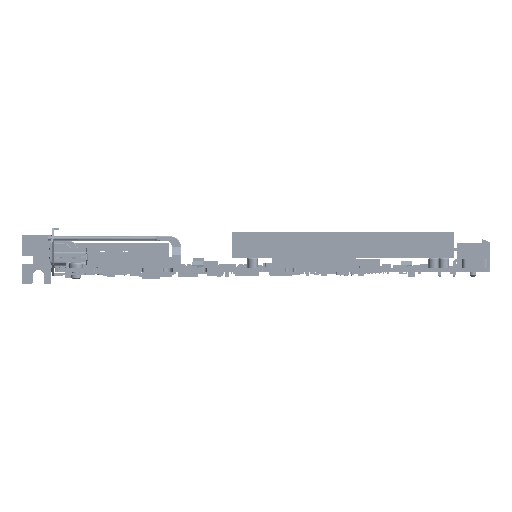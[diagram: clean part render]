
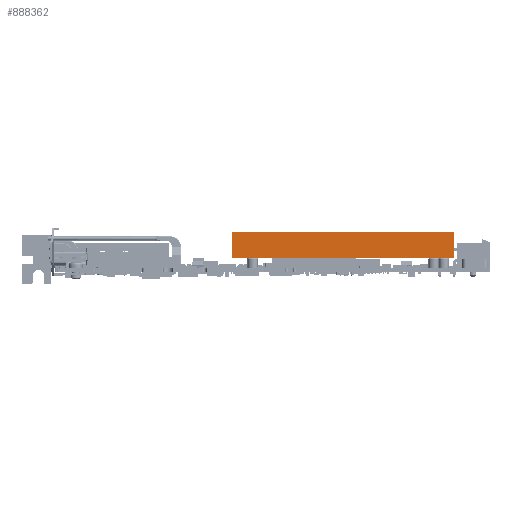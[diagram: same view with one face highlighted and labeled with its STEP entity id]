
A CAD part, front view. The second image highlights one B-rep face of the part: STEP entity #888362.
In plain terms, the highlighted planar face has unit normal (0, -1, 0) as drawn and (1, 0, 0) by its records, which use the part's own axes.
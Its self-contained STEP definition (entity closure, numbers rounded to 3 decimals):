
#887019=DIRECTION('',(0.,-1.,0.));
#887020=VECTOR('',#887019,10.1);
#887021=CARTESIAN_POINT('',(27.5,10.1,51.));
#887022=LINE('',#887021,#887020);
#887091=DIRECTION('',(0.,0.,1.));
#887092=VECTOR('',#887091,86.);
#887093=CARTESIAN_POINT('',(27.5,10.1,-35.));
#887094=LINE('',#887093,#887092);
#887103=DIRECTION('',(0.,-1.,0.));
#887104=VECTOR('',#887103,10.1);
#887105=CARTESIAN_POINT('',(27.5,10.1,-35.));
#887106=LINE('',#887105,#887104);
#887107=DIRECTION('',(0.,0.,1.));
#887108=VECTOR('',#887107,86.);
#887109=CARTESIAN_POINT('',(27.5,0.,-35.));
#887110=LINE('',#887109,#887108);
#887295=CARTESIAN_POINT('',(27.5,0.,-35.));
#887297=VERTEX_POINT('',#887295);
#887301=CARTESIAN_POINT('',(27.5,0.,51.));
#887302=VERTEX_POINT('',#887301);
#887319=CARTESIAN_POINT('',(27.5,10.1,-35.));
#887320=VERTEX_POINT('',#887319);
#887325=CARTESIAN_POINT('',(27.5,10.1,51.));
#887327=VERTEX_POINT('',#887325);
#888351=CARTESIAN_POINT('',(27.5,0.,51.));
#888352=DIRECTION('',(1.,0.,0.));
#888353=DIRECTION('',(0.,0.,-1.));
#888354=AXIS2_PLACEMENT_3D('',#888351,#888352,#888353);
#888355=PLANE('',#888354);
#888356=ORIENTED_EDGE('',*,*,#888206,.T.);
#888357=ORIENTED_EDGE('',*,*,#887578,.T.);
#888358=ORIENTED_EDGE('',*,*,#888238,.F.);
#888359=ORIENTED_EDGE('',*,*,#888344,.F.);
#888360=EDGE_LOOP('',(#888356,#888357,#888358,#888359));
#888361=FACE_OUTER_BOUND('',#888360,.F.);
#888362=ADVANCED_FACE('',(#888361),#888355,.T.);
#887578=EDGE_CURVE('',#887297,#887302,#887110,.T.);
#888206=EDGE_CURVE('',#887320,#887297,#887106,.T.);
#888238=EDGE_CURVE('',#887327,#887302,#887022,.T.);
#888344=EDGE_CURVE('',#887320,#887327,#887094,.T.);
